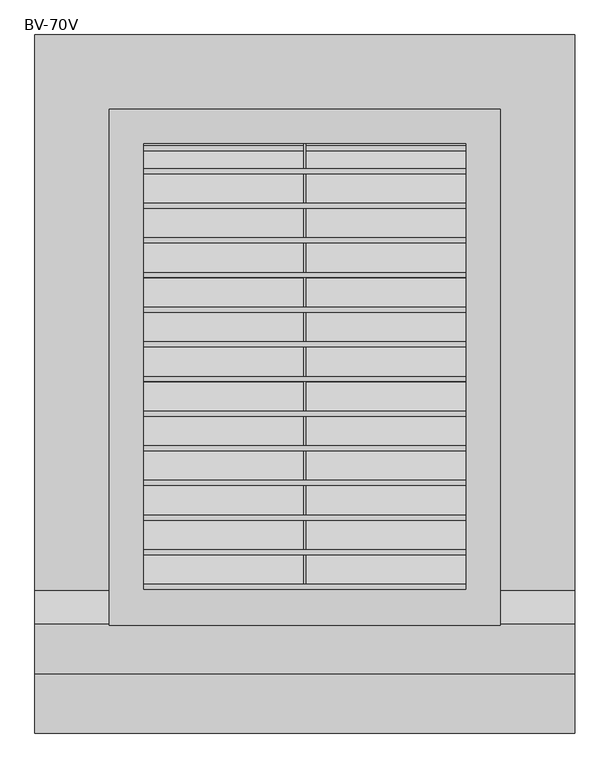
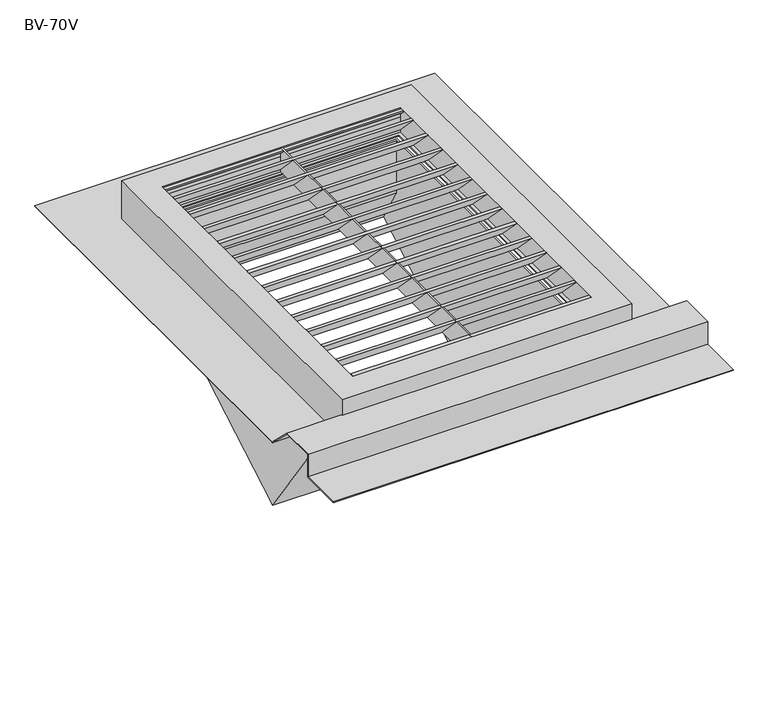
"""IFC4 building model written with IfcOpenShell, lengths in millimetres: air terminal geometry, NLRS_57_AIR_FB_Buitenluchtroosters BV-70V_SMA : BV-70V."""

from ifc_helpers import new_model, si_unit, frame, origin, place, context, project, spatial, polyline, outline, extrude, faceted_brep, source, transform, mapped, element, save


def bv_70v_ad4d4b1c(model_context):
    return source(origin(), model_context, "Body", "SolidModel", [
        extrude(outline(polyline([(330.0694981, 113.0), (330.0694981, 111.6939238), (322.3735338, 111.6939238), (389.9430991, 42.2), (398.800293, 42.2), (398.800293, 44.4930749), (395.903107, 47.3902609), (396.7462329, 48.2333867), (399.9828093, 44.9968103), (399.9828093, 41.0), (390.0, 41.0), (320.0694981, 113.0), (330.0694981, 113.0)])), frame((-325.0, 0.0, 0.0), z_axis=(1.0, 0.0, 0.0), x_axis=(0.0, 1.0, 0.0)), (0.0, 0.0, 1.0), 650.0),
        extrude(outline(polyline([(260.0694981, 113.0), (260.0694981, 111.6939238), (252.3735338, 111.6939238), (319.9430991, 42.2), (328.800293, 42.2), (328.800293, 44.4930749), (325.903107, 47.3902609), (326.7462329, 48.2333867), (329.9828093, 44.9968103), (329.9828093, 41.0), (320.0, 41.0), (250.0694981, 113.0), (260.0694981, 113.0)])), frame((-325.0, 0.0, 0.0), z_axis=(1.0, 0.0, 0.0), x_axis=(0.0, 1.0, 0.0)), (0.0, 0.0, 1.0), 650.0),
        extrude(outline(polyline([(190.0694981, 113.0), (190.0694981, 111.6939238), (182.3735338, 111.6939238), (249.9430991, 42.2), (258.800293, 42.2), (258.800293, 44.4930749), (255.903107, 47.3902609), (256.7462329, 48.2333867), (259.9828093, 44.9968103), (259.9828093, 41.0), (250.0, 41.0), (180.0694981, 113.0), (190.0694981, 113.0)])), frame((-325.0, 0.0, 0.0), z_axis=(1.0, 0.0, 0.0), x_axis=(0.0, 1.0, 0.0)), (0.0, 0.0, 1.0), 650.0),
        extrude(outline(polyline([(120.0694981, 113.0), (120.0694981, 111.6939238), (112.3735338, 111.6939238), (179.9430991, 42.2), (188.800293, 42.2), (188.800293, 44.4930749), (185.903107, 47.3902609), (186.7462329, 48.2333867), (189.9828093, 44.9968103), (189.9828093, 41.0), (180.0, 41.0), (110.0694981, 113.0), (120.0694981, 113.0)])), frame((-325.0, 0.0, 0.0), z_axis=(1.0, 0.0, 0.0), x_axis=(0.0, 1.0, 0.0)), (0.0, 0.0, 1.0), 650.0),
        extrude(outline(polyline([(50.0694981, 113.0), (50.0694981, 111.6939238), (42.3735338, 111.6939238), (109.9430991, 42.2), (118.800293, 42.2), (118.800293, 44.4930749), (115.903107, 47.3902609), (116.7462329, 48.2333867), (119.9828093, 44.9968103), (119.9828093, 41.0), (110.0, 41.0), (40.0694981, 113.0), (50.0694981, 113.0)])), frame((-325.0, 0.0, 0.0), z_axis=(1.0, 0.0, 0.0), x_axis=(0.0, 1.0, 0.0)), (0.0, 0.0, 1.0), 650.0),
        extrude(outline(polyline([(-19.9305019, 113.0), (-19.9305019, 111.6939238), (-27.6264662, 111.6939238), (39.9430991, 42.2), (48.800293, 42.2), (48.800293, 44.4930749), (45.903107, 47.3902609), (46.7462329, 48.2333867), (49.9828093, 44.9968103), (49.9828093, 41.0), (40.0, 41.0), (-29.9305019, 113.0), (-19.9305019, 113.0)])), frame((-325.0, 0.0, 0.0), z_axis=(1.0, 0.0, 0.0), x_axis=(0.0, 1.0, 0.0)), (0.0, 0.0, 1.0), 650.0),
        extrude(outline(polyline([(-89.9305019, 113.0), (-89.9305019, 111.6939238), (-97.6264662, 111.6939238), (-30.0569009, 42.2), (-21.199707, 42.2), (-21.199707, 44.4930749), (-24.096893, 47.3902609), (-23.2537671, 48.2333867), (-20.0171907, 44.9968103), (-20.0171907, 41.0), (-30.0, 41.0), (-99.9305019, 113.0), (-89.9305019, 113.0)])), frame((-325.0, 0.0, 0.0), z_axis=(1.0, 0.0, 0.0), x_axis=(0.0, 1.0, 0.0)), (0.0, 0.0, 1.0), 650.0),
        extrude(outline(polyline([(-159.9305019, 113.0), (-159.9305019, 111.6939238), (-167.6264662, 111.6939238), (-100.0569009, 42.2), (-91.199707, 42.2), (-91.199707, 44.4930749), (-94.096893, 47.3902609), (-93.2537671, 48.2333867), (-90.0171907, 44.9968103), (-90.0171907, 41.0), (-100.0, 41.0), (-169.9305019, 113.0), (-159.9305019, 113.0)])), frame((-325.0, 0.0, 0.0), z_axis=(1.0, 0.0, 0.0), x_axis=(0.0, 1.0, 0.0)), (0.0, 0.0, 1.0), 650.0),
        extrude(outline(polyline([(-229.9305019, 113.0), (-229.9305019, 111.6939238), (-237.6264662, 111.6939238), (-170.0569009, 42.2), (-161.199707, 42.2), (-161.199707, 44.4930749), (-164.096893, 47.3902609), (-163.2537671, 48.2333867), (-160.0171907, 44.9968103), (-160.0171907, 41.0), (-170.0, 41.0), (-239.9305019, 113.0), (-229.9305019, 113.0)])), frame((-325.0, 0.0, 0.0), z_axis=(1.0, 0.0, 0.0), x_axis=(0.0, 1.0, 0.0)), (0.0, 0.0, 1.0), 650.0),
        extrude(outline(polyline([(-299.9305019, 113.0), (-299.9305019, 111.6939238), (-307.6264662, 111.6939238), (-240.0569009, 42.2), (-231.199707, 42.2), (-231.199707, 44.4930749), (-234.096893, 47.3902609), (-233.2537671, 48.2333867), (-230.0171907, 44.9968103), (-230.0171907, 41.0), (-240.0, 41.0), (-309.9305019, 113.0), (-299.9305019, 113.0)])), frame((-325.0, 0.0, 0.0), z_axis=(1.0, 0.0, 0.0), x_axis=(0.0, 1.0, 0.0)), (0.0, 0.0, 1.0), 650.0),
        extrude(outline(polyline([(-369.9305019, 113.0), (-369.9305019, 111.6939238), (-377.6264662, 111.6939238), (-310.0569009, 42.2), (-301.199707, 42.2), (-301.199707, 44.4930749), (-304.096893, 47.3902609), (-303.2537671, 48.2333867), (-300.0171907, 44.9968103), (-300.0171907, 41.0), (-310.0, 41.0), (-379.9305019, 113.0), (-369.9305019, 113.0)])), frame((-325.0, 0.0, 0.0), z_axis=(1.0, 0.0, 0.0), x_axis=(0.0, 1.0, 0.0)), (0.0, 0.0, 1.0), 650.0),
        extrude(outline(polyline([(400.0694981, 113.0), (400.0694981, 111.6939238), (392.3735338, 111.6939238), (450.0, 51.1396011), (450.0, 50.0), (390.0694981, 113.0), (400.0694981, 113.0)])), frame((-325.0, 0.0, 0.0), z_axis=(1.0, 0.0, 0.0), x_axis=(0.0, 1.0, 0.0)), (0.0, 0.0, 1.0), 650.0),
        extrude(outline(polyline([(-439.9305019, 113.0), (-439.9305019, 111.6939238), (-447.6264662, 111.6939238), (-380.0569009, 42.2), (-371.199707, 42.2), (-371.199707, 44.4930749), (-374.096893, 47.3902609), (-373.2537671, 48.2333867), (-370.0171907, 44.9968103), (-370.0171907, 41.0), (-380.0, 41.0), (-449.9305019, 113.0), (-439.9305019, 113.0)])), frame((-325.0, 0.0, 0.0), z_axis=(1.0, 0.0, 0.0), x_axis=(0.0, 1.0, 0.0)), (0.0, 0.0, 1.0), 650.0),
        faceted_brep([(315.0, 440.0, 43.0), (315.0, 440.0, 41.0), (315.0, -440.0, 41.0), (315.0, -440.0, 43.0), (325.0, 450.0, 113.0), (325.0, 450.0, 43.0), (325.0, -450.0, 43.0), (325.0, -450.0, 113.0), (327.000122, 452.000122, 41.0), (327.000122, 452.000122, 111.0), (327.000122, -452.000122, 111.0), (327.000122, -452.000122, 41.0), (-315.0, -440.0, 41.0), (-315.0, -440.0, 43.0), (-325.0, -450.0, 43.0), (-325.0, -450.0, 113.0), (-327.000122, -452.000122, 111.0), (-327.000122, -452.000122, 41.0), (-315.0, 440.0, 41.0), (-315.0, 440.0, 43.0), (-325.0, 450.0, 43.0), (-325.0, 450.0, 113.0), (-327.000122, 452.000122, 111.0), (-327.000122, 452.000122, 41.0), (-393.0, -520.0, 111.0), (-393.0, 518.0, 111.0), (393.0, 518.0, 111.0), (393.0, -520.0, 111.0), (-395.0, 520.0, 2.0), (395.0, 520.0, 2.0), (395.0, -452.0588235, 2.0), (545.0, -452.0588235, 2.0), (545.0, 670.0, 2.0), (-545.0, 670.0, 2.0), (-545.0, -452.0588235, 2.0), (-395.0, -452.0588235, 2.0), (-545.0, 670.0, 0.0), (-545.0, -450.0, 0.0), (-545.0, -451.3935714, -1.4345588), (-545.0, -520.8114995, 66.0), (-545.0, -618.0, 66.0), (-545.0, -618.0, 1.0), (-545.0, -740.0, 1.0), (-545.0, -740.0, 3.0), (-545.0, -620.0, 3.0), (-545.0, -620.0, 68.0), (-545.0, -520.0, 68.0), (545.0, 670.0, 0.0), (545.0, -450.0, 0.0), (393.0, -450.0, 0.0), (393.0, 518.0, 0.0), (-393.0, 518.0, 0.0), (-393.0, -450.0, 0.0), (-393.0, -520.0, 68.0), (-395.0, -522.000122, 113.0), (-395.0, 520.0, 113.0), (-395.0, -520.0, 68.0), (-395.0, -522.000122, 68.0), (395.0, 520.0, 113.0), (545.0, -520.0, 68.0), (545.0, -620.0, 68.0), (545.0, -620.0, 3.0), (545.0, -740.0, 3.0), (545.0, -740.0, 1.0), (545.0, -618.0, 1.0), (545.0, -618.0, 66.0), (545.0, -520.8114995, 66.0), (545.0, -451.3935714, -1.4345588), (393.0, -520.0, 68.0), (395.0, -522.000122, 113.0), (395.0, -522.000122, 68.0), (395.0, -520.0, 68.0)], [[[0, 1, 2, 3]], [[4, 5, 6, 7]], [[8, 9, 10, 11]], [[3, 2, 12, 13]], [[7, 6, 14, 15]], [[11, 10, 16, 17]], [[13, 12, 18, 19]], [[15, 14, 20, 21]], [[17, 16, 22, 23]], [[8, 11, 17, 23], [2, 1, 18, 12]], [[1, 0, 19, 18]], [[6, 5, 20, 14], [0, 3, 13, 19]], [[5, 4, 21, 20]], [[24, 25, 26, 27], [10, 9, 22, 16]], [[9, 8, 23, 22]], [[28, 29, 30, 31, 32, 33, 34, 35]], [[33, 36, 37, 38, 39, 40, 41, 42, 43, 44, 45, 46, 34]], [[36, 47, 48, 49, 50, 51, 52, 37]], [[52, 51, 25, 24, 53]], [[54, 55, 28, 35, 56, 57]], [[33, 32, 47, 36]], [[51, 50, 26, 25]], [[58, 29, 28, 55]], [[47, 32, 31, 59, 60, 61, 62, 63, 64, 65, 66, 67, 48]], [[50, 49, 68, 27, 26]], [[58, 69, 70, 71, 30, 29]], [[62, 43, 42, 63]], [[43, 62, 61, 44]], [[63, 42, 41, 64]], [[44, 61, 60, 45]], [[41, 40, 65, 64]], [[46, 45, 60, 59, 71, 70, 57, 56]], [[40, 39, 66, 65]], [[38, 37, 52, 49, 48, 67]], [[71, 59, 31, 30]], [[46, 56, 35, 34]], [[49, 52, 53, 68]], [[39, 38, 67, 66]], [[54, 57, 70, 69]], [[53, 24, 27, 68]], [[58, 55, 54, 69], [4, 7, 15, 21]]]),
        faceted_brep([(305.0, -38.4566823, -515.9230485), (305.0, 489.8188141, -210.9230485), (305.0, 429.8188141, -107.0), (305.0, 429.8188141, 43.0), (305.0, -429.8188141, 43.0), (-305.0, -38.4566823, -515.9230485), (-305.0, -429.8188141, 43.0), (-305.0, 429.8188141, 43.0), (-305.0, 429.8188141, -107.0), (-305.0, 489.8188141, -210.9230485), (300.0, -34.6948108, -513.7511309), (300.0, 485.8568157, -213.2105093), (-300.0, 485.8568157, -213.2105093), (-300.0, -34.6948108, -513.7511309), (300.0, 424.5361496, 43.0), (300.0, -424.5361496, 43.0), (-300.0, -424.5361496, 43.0), (-300.0, 424.5361496, 43.0), (300.0, 424.5361496, -107.0), (-300.0, 424.5361496, -107.0)], [[[0, 1, 2, 3, 4]], [[5, 6, 7, 8, 9]], [[1, 0, 5, 9], [10, 11, 12, 13]], [[2, 1, 9, 8]], [[3, 2, 8, 7]], [[4, 3, 7, 6], [14, 15, 16, 17]], [[0, 4, 6, 5]], [[14, 18, 11, 10, 15]], [[19, 17, 16, 13, 12]], [[18, 14, 17, 19]], [[15, 10, 13, 16]], [[18, 19, 12, 11]]]),
        extrude(outline(polyline([(2.0, 450.0), (2.0, -450.0), (-2.0, -450.0), (-2.0, 450.0), (2.0, 450.0)])), frame((0.0, 0.0, 43.0), z_axis=(0.0, 0.0, 1.0), x_axis=(1.0, 0.0, 0.0)), (0.0, 0.0, 1.0), 70.0),
        extrude(outline(polyline([(446.070888, 113.0), (450.0, 109.070888), (450.0, 88.0), (449.0, 88.0), (449.0, 108.452311), (445.57333, 111.800048), (437.270717, 111.800048), (437.270717, 109.49707), (440.44955, 106.318115), (439.600795, 105.470215), (436.070766, 108.999511), (436.070766, 113.0), (446.070888, 113.0)])), frame((-325.0, 0.0, 0.0), z_axis=(1.0, 0.0, 0.0), x_axis=(0.0, 1.0, 0.0)), (0.0, 0.0, 1.0), 650.0),
    ])


if __name__ == "__main__":
    model = new_model("IFC4")
    model_context = context("Model", 3, world=origin())
    ifc_project = project(units=[si_unit("LENGTHUNIT", "METRE", prefix="MILLI")], contexts=[model_context])
    site = spatial("IfcSite", under=ifc_project)
    building = spatial("IfcBuilding", under=site)
    placement = place(None, origin())
    bv_70v_shape = bv_70v_ad4d4b1c(model_context)
    element("IfcAirTerminal", 1, ObjectType="NLRS_57_AIR_FB_Buitenluchtroosters BV-70V_SMA : BV-70V", at=placement, inside=building, context=model_context, shape_type="MappedRepresentation", body=[
        mapped(bv_70v_shape, transform((0.0, 0.0, 0.0), x_axis=(1.0, 0.0, 0.0), y_axis=(0.0, 1.0, 0.0), z_axis=(0.0, 0.0, 1.0))),
    ])
    save(model, "model.ifc")
